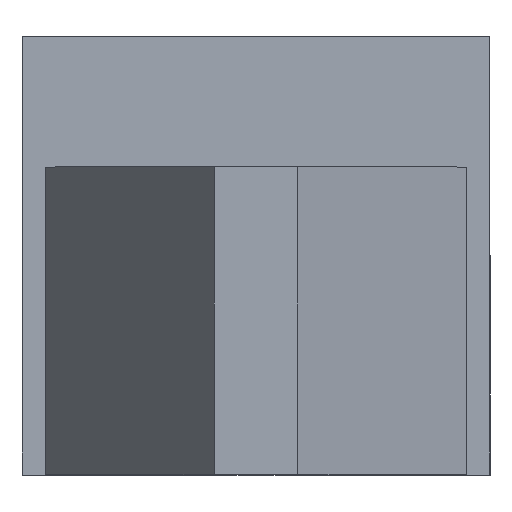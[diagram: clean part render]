
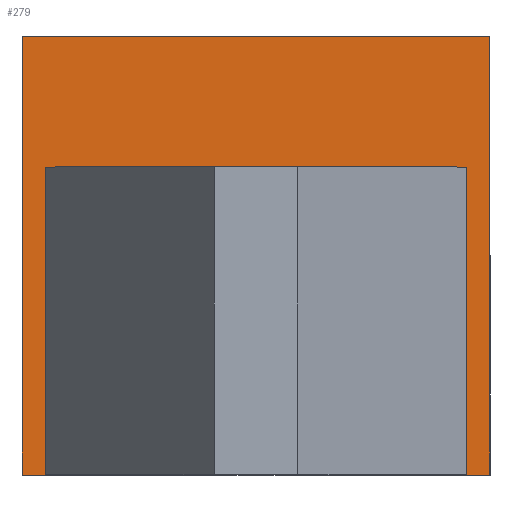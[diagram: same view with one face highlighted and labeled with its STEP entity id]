
A CAD part, top view. The second image highlights one B-rep face of the part: STEP entity #279.
In plain terms, the highlighted planar face has unit normal (0, 0, 1).
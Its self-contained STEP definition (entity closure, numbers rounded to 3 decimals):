
#5 = LINE ( 'NONE', #795, #1173 ) ;
#6 = VERTEX_POINT ( 'NONE', #209 ) ;
#49 = VECTOR ( 'NONE', #251, 1000. ) ;
#51 = VERTEX_POINT ( 'NONE', #874 ) ;
#72 = CARTESIAN_POINT ( 'NONE',  ( 1.29, 0., 9.024 ) ) ;
#93 = EDGE_CURVE ( 'NONE', #51, #274, #627, .T. ) ;
#144 = CARTESIAN_POINT ( 'NONE',  ( -1.29, 0., 9.024 ) ) ;
#151 = DIRECTION ( 'NONE',  ( -1., 0., 0. ) ) ;
#156 = LINE ( 'NONE', #1270, #1055 ) ;
#166 = ORIENTED_EDGE ( 'NONE', *, *, #955, .F. ) ;
#179 = CARTESIAN_POINT ( 'NONE',  ( 7.144, 13.4, 9.024 ) ) ;
#187 = DIRECTION ( 'NONE',  ( 0., -1., 0. ) ) ;
#206 = ORIENTED_EDGE ( 'NONE', *, *, #1191, .F. ) ;
#209 = CARTESIAN_POINT ( 'NONE',  ( -7.144, 13.4, 9.024 ) ) ;
#231 = VERTEX_POINT ( 'NONE', #311 ) ;
#232 = DIRECTION ( 'NONE',  ( 0., -1., 0. ) ) ;
#247 = AXIS2_PLACEMENT_3D ( 'NONE', #1410, #827, #151 ) ;
#251 = DIRECTION ( 'NONE',  ( 1., 0., 0. ) ) ;
#274 = VERTEX_POINT ( 'NONE', #144 ) ;
#279 = ADVANCED_FACE ( 'NONE', ( #447 ), #820, .F. ) ;
#311 = CARTESIAN_POINT ( 'NONE',  ( 1.29, 9.4, 9.024 ) ) ;
#321 = VECTOR ( 'NONE', #187, 1000. ) ;
#391 = EDGE_CURVE ( 'NONE', #669, #231, #568, .T. ) ;
#399 = DIRECTION ( 'NONE',  ( 1., 0., 0. ) ) ;
#445 = VERTEX_POINT ( 'NONE', #969 ) ;
#447 = FACE_OUTER_BOUND ( 'NONE', #973, .T. ) ;
#478 = DIRECTION ( 'NONE',  ( 0., -1., 0. ) ) ;
#488 = EDGE_CURVE ( 'NONE', #1025, #445, #764, .T. ) ;
#529 = ORIENTED_EDGE ( 'NONE', *, *, #488, .T. ) ;
#537 = CARTESIAN_POINT ( 'NONE',  ( 1.29, 0., 9.024 ) ) ;
#560 = ORIENTED_EDGE ( 'NONE', *, *, #93, .T. ) ;
#568 = LINE ( 'NONE', #1079, #1183 ) ;
#574 = DIRECTION ( 'NONE',  ( 0., -1., 0. ) ) ;
#627 = LINE ( 'NONE', #1215, #1209 ) ;
#653 = VECTOR ( 'NONE', #478, 1000. ) ;
#669 = VERTEX_POINT ( 'NONE', #777 ) ;
#719 = LINE ( 'NONE', #1408, #653 ) ;
#750 = EDGE_CURVE ( 'NONE', #6, #51, #5, .T. ) ;
#764 = LINE ( 'NONE', #72, #1068 ) ;
#775 = ORIENTED_EDGE ( 'NONE', *, *, #910, .T. ) ;
#777 = CARTESIAN_POINT ( 'NONE',  ( -1.29, 9.4, 9.024 ) ) ;
#795 = CARTESIAN_POINT ( 'NONE',  ( -7.144, 9.4, 9.024 ) ) ;
#820 = PLANE ( 'NONE',  #247 ) ;
#827 = DIRECTION ( 'NONE',  ( 0., 0., -1. ) ) ;
#872 = CARTESIAN_POINT ( 'NONE',  ( 7.144, 9.4, 9.024 ) ) ;
#874 = CARTESIAN_POINT ( 'NONE',  ( -7.144, 0., 9.024 ) ) ;
#910 = EDGE_CURVE ( 'NONE', #231, #1025, #719, .T. ) ;
#954 = LINE ( 'NONE', #1042, #49 ) ;
#955 = EDGE_CURVE ( 'NONE', #1446, #445, #1195, .T. ) ;
#969 = CARTESIAN_POINT ( 'NONE',  ( 7.144, 0., 9.024 ) ) ;
#972 = DIRECTION ( 'NONE',  ( 1., 0., 0. ) ) ;
#973 = EDGE_LOOP ( 'NONE', ( #529, #166, #1208, #1400, #560, #206, #1187, #775 ) ) ;
#1025 = VERTEX_POINT ( 'NONE', #537 ) ;
#1042 = CARTESIAN_POINT ( 'NONE',  ( -7.144, 13.4, 9.024 ) ) ;
#1055 = VECTOR ( 'NONE', #574, 1000. ) ;
#1068 = VECTOR ( 'NONE', #972, 1000. ) ;
#1079 = CARTESIAN_POINT ( 'NONE',  ( -7.144, 9.4, 9.024 ) ) ;
#1173 = VECTOR ( 'NONE', #232, 1000. ) ;
#1183 = VECTOR ( 'NONE', #399, 1000. ) ;
#1187 = ORIENTED_EDGE ( 'NONE', *, *, #391, .T. ) ;
#1191 = EDGE_CURVE ( 'NONE', #669, #274, #156, .T. ) ;
#1195 = LINE ( 'NONE', #872, #321 ) ;
#1208 = ORIENTED_EDGE ( 'NONE', *, *, #1268, .F. ) ;
#1209 = VECTOR ( 'NONE', #1330, 1000. ) ;
#1215 = CARTESIAN_POINT ( 'NONE',  ( -7.144, 0., 9.024 ) ) ;
#1268 = EDGE_CURVE ( 'NONE', #6, #1446, #954, .T. ) ;
#1270 = CARTESIAN_POINT ( 'NONE',  ( -1.29, 9.4, 9.024 ) ) ;
#1330 = DIRECTION ( 'NONE',  ( 1., 0., 0. ) ) ;
#1400 = ORIENTED_EDGE ( 'NONE', *, *, #750, .T. ) ;
#1408 = CARTESIAN_POINT ( 'NONE',  ( 1.29, 9.4, 9.024 ) ) ;
#1410 = CARTESIAN_POINT ( 'NONE',  ( 1.29, 9.4, 9.024 ) ) ;
#1446 = VERTEX_POINT ( 'NONE', #179 ) ;
